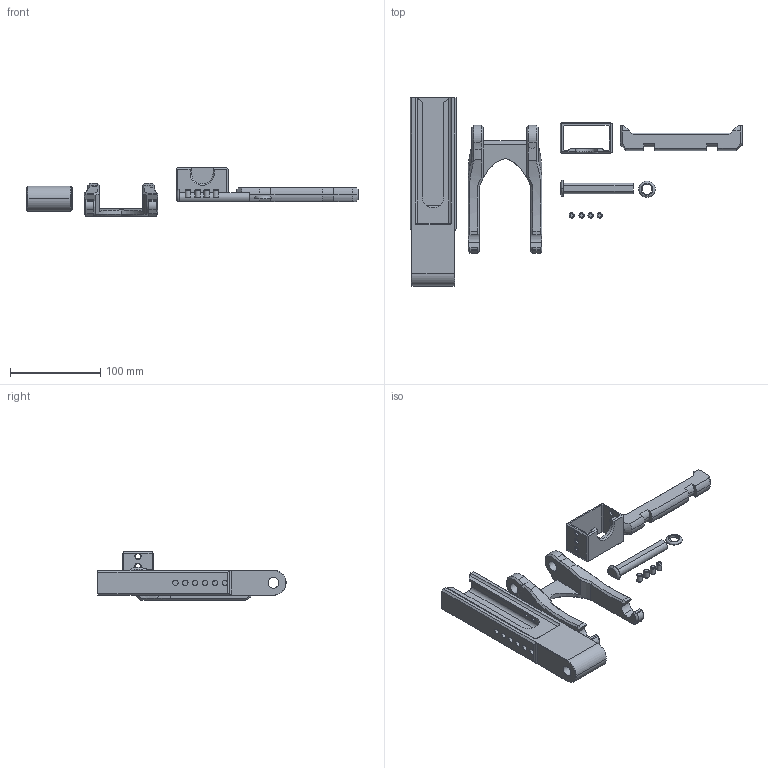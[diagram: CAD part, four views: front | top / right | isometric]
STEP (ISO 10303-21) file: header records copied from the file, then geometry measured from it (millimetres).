
FILE_DESCRIPTION(('HOOPS Exchange Step'),'2;1');
FILE_NAME('/private/var/mobile/Containers/Data/Application/B4C954D6-DB25-4CA9-B7AF-3DDFFC2ADE07/tmp/export/temp_export','2022-02-05T17:36:25+01:00',('mobile'),('Shapr3D Limited'),'HOOPS Exchange 2021.2','Shapr3D','Authorized');
FILE_SCHEMA( ('AP203_CONFIGURATION_CONTROLLED_3D_DESIGN_OF_MECHANICAL_PARTS_AND_ASSEMBLIES_MIM_LF') );
Length unit declared in the file: millimetre
Products named in the file (2): Endgültig ; /private/var/mobile/Containers/Data/Application/B4C954D6-DB25-4CA9-B7AF-3DDFFC2ADE07/tmp/8E99235A-F32E-4C61-8731-01CEA3A01F5E.tmp
Assembly tree (1 placements, depth 2):
  /private/var/mobile/Containers/Data/Application/B4C954D6-DB25-4CA9-B7AF-3DDFFC2ADE07/tmp/8E99235A-F32E-4C61-8731-01CEA3A01F5E.tmp
    Endgültig 
Bounding box: 368.64 x 209 x 53.73 mm (x, y, z)
Volume: 327174.7 mm3; surface area: 98042.6 mm2
Topology: 10 solids, 10 shells, 363 faces, 991 edges, 636 vertices
Faces by surface type: plane 158, cylinder 93, bspline 57, cone 36, torus 17, offset 2
Full cylindrical faces by diameter (mm): 6 x21, 12 x3, 18.111 x1
Entity records: 16564 total; most frequent: CARTESIAN_POINT 7520, ORIENTED_EDGE 1980, DIRECTION 1725, EDGE_CURVE 990, VERTEX_POINT 636, AXIS2_PLACEMENT_3D 619, VECTOR 487, LINE 487
